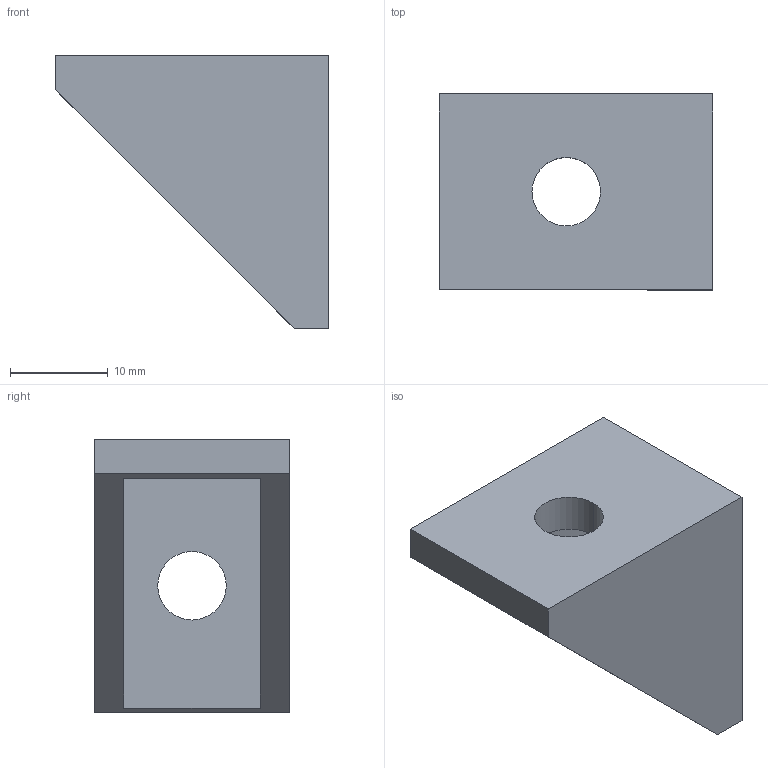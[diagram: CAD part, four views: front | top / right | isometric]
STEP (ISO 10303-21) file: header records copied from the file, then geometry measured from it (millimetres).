
FILE_DESCRIPTION((''),'2;1');
FILE_NAME('SQ028020','2002-12-27T',('Lipro doo'),('Lipro d.o.o.'),'PRO/ENGINEER BY PARAMETRIC TECHNOLOGY CORPORATION, 2001150','PRO/ENGINEER BY PARAMETRIC TECHNOLOGY CORPORATION, 2001150','');
FILE_SCHEMA(('CONFIG_CONTROL_DESIGN'));
Length unit declared in the file: millimetre
Products named in the file (1): SQ028020
Bounding box: 28 x 20 x 28 mm (x, y, z)
Volume: 5503.9 mm3; surface area: 3687.7 mm2
Topology: 1 solids, 1 shells, 15 faces, 36 edges, 24 vertices
Faces by surface type: plane 11, cylinder 4
Entity records: 484 total; most frequent: CARTESIAN_POINT 75, DIRECTION 74, ORIENTED_EDGE 72, EDGE_CURVE 36, VECTOR 28, LINE 28, VERTEX_POINT 24, AXIS2_PLACEMENT_3D 23
